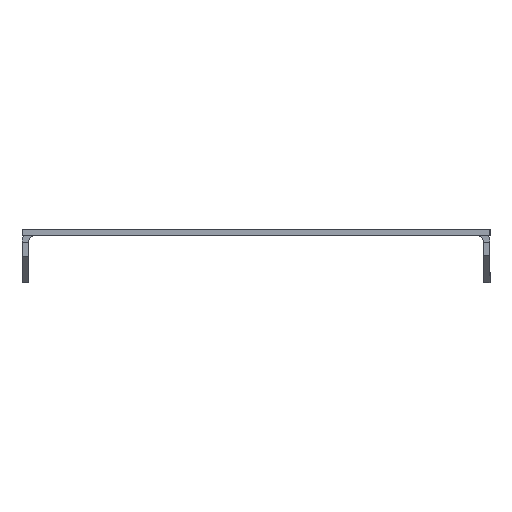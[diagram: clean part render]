
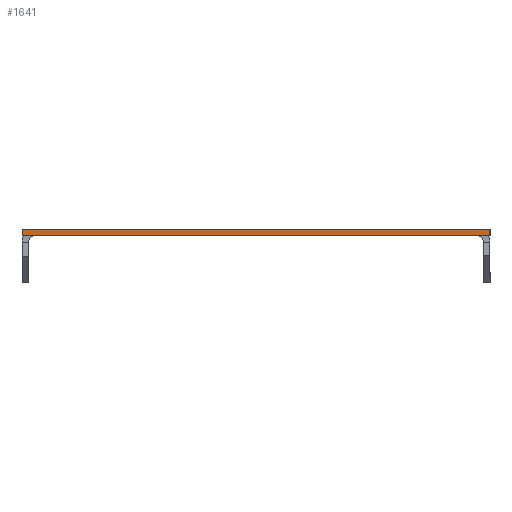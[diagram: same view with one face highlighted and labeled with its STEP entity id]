
A CAD part, left-side view. The second image highlights one B-rep face of the part: STEP entity #1641.
In plain terms, the highlighted planar face has unit normal (-1, 0, 0).
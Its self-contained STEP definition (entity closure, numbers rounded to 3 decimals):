
#154 = CARTESIAN_POINT ( 'NONE',  ( -241.3, 44.05, 0. ) ) ;
#155 = CARTESIAN_POINT ( 'NONE',  ( -241.3, -44.05, 0. ) ) ;
#173 = CARTESIAN_POINT ( 'NONE',  ( -241.3, -44.05, 1.2 ) ) ;
#174 = CARTESIAN_POINT ( 'NONE',  ( -241.3, 44.05, 1.2 ) ) ;
#424 = VERTEX_POINT ( 'NONE', #174 ) ;
#425 = VERTEX_POINT ( 'NONE', #173 ) ;
#443 = VERTEX_POINT ( 'NONE', #155 ) ;
#444 = VERTEX_POINT ( 'NONE', #154 ) ;
#506 = EDGE_LOOP ( 'NONE', ( #616, #617, #615, #619 ) ) ;
#615 = ORIENTED_EDGE ( 'NONE', *, *, #1533, .F. ) ;
#616 = ORIENTED_EDGE ( 'NONE', *, *, #1665, .T. ) ;
#617 = ORIENTED_EDGE ( 'NONE', *, *, #1624, .F. ) ;
#619 = ORIENTED_EDGE ( 'NONE', *, *, #1553, .T. ) ;
#835 = DIRECTION ( 'NONE',  ( 0., -1., 0. ) ) ;
#836 = CARTESIAN_POINT ( 'NONE',  ( -241.3, 44.05, 0. ) ) ;
#837 = LINE ( 'NONE', #836, #1501 ) ;
#913 = DIRECTION ( 'NONE',  ( 0., 0., -1. ) ) ;
#914 = DIRECTION ( 'NONE',  ( 1., 0., 0. ) ) ;
#915 = CARTESIAN_POINT ( 'NONE',  ( -241.3, 44.05, 1.2 ) ) ;
#916 = PLANE ( 'NONE',  #1436 ) ;
#972 = DIRECTION ( 'NONE',  ( 0., 0., -1. ) ) ;
#973 = CARTESIAN_POINT ( 'NONE',  ( -241.3, -44.05, 1.2 ) ) ;
#974 = LINE ( 'NONE', #973, #1453 ) ;
#1209 = DIRECTION ( 'NONE',  ( 0., 0., -1. ) ) ;
#1210 = CARTESIAN_POINT ( 'NONE',  ( -241.3, 44.05, 1.2 ) ) ;
#1211 = LINE ( 'NONE', #1210, #1789 ) ;
#1269 = DIRECTION ( 'NONE',  ( 0., -1., 0. ) ) ;
#1270 = CARTESIAN_POINT ( 'NONE',  ( -241.3, 44.05, 1.2 ) ) ;
#1271 = LINE ( 'NONE', #1270, #1851 ) ;
#1436 = AXIS2_PLACEMENT_3D ( 'NONE', #915, #914, #913 ) ;
#1447 = FACE_OUTER_BOUND ( 'NONE', #506, .T. ) ;
#1453 = VECTOR ( 'NONE', #972, 1000. ) ;
#1501 = VECTOR ( 'NONE', #835, 1000. ) ;
#1533 = EDGE_CURVE ( 'NONE', #424, #425, #1271, .T. ) ;
#1553 = EDGE_CURVE ( 'NONE', #424, #444, #1211, .T. ) ;
#1624 = EDGE_CURVE ( 'NONE', #425, #443, #974, .T. ) ;
#1641 = ADVANCED_FACE ( 'NONE', ( #1447 ), #916, .F. ) ;
#1665 = EDGE_CURVE ( 'NONE', #444, #443, #837, .T. ) ;
#1789 = VECTOR ( 'NONE', #1209, 1000. ) ;
#1851 = VECTOR ( 'NONE', #1269, 1000. ) ;
